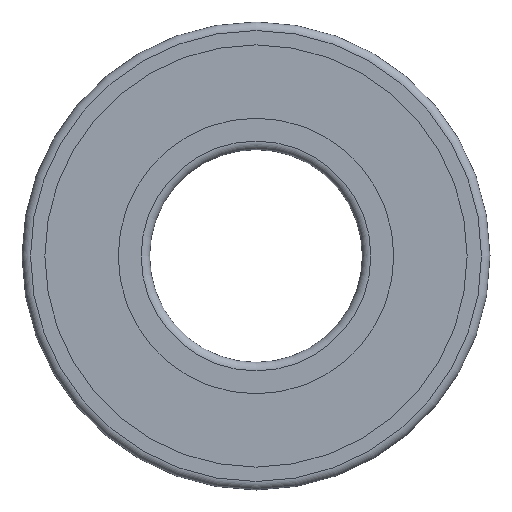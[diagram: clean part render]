
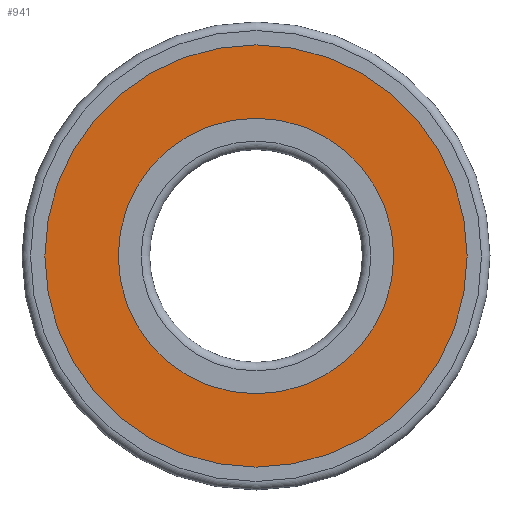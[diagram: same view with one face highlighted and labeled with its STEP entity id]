
A CAD part, left-side view. The second image highlights one B-rep face of the part: STEP entity #941.
In plain terms, the highlighted planar face has unit normal (-1, 0, 0).
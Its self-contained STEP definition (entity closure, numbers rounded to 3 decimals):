
#153=PLANE($,#1103);
#193=FACE_BOUND($,#332,.T.);
#194=FACE_BOUND($,#333,.T.);
#332=EDGE_LOOP($,(#874));
#333=EDGE_LOOP($,(#875));
#423=CIRCLE($,#1102,32.38);
#424=CIRCLE($,#1104,49.62);
#513=VERTEX_POINT($,#2398);
#514=VERTEX_POINT($,#2401);
#634=EDGE_CURVE($,#513,#513,#423,.T.);
#635=EDGE_CURVE($,#514,#514,#424,.T.);
#874=ORIENTED_EDGE($,*,*,#634,.T.);
#875=ORIENTED_EDGE($,*,*,#635,.F.);
#941=ADVANCED_FACE($,(#193,#194),#153,.T.);
#1102=AXIS2_PLACEMENT_3D($,#2399,#1419,#1420);
#1103=AXIS2_PLACEMENT_3D($,#2400,#1421,#1422);
#1104=AXIS2_PLACEMENT_3D($,#2402,#1423,#1424);
#1419=DIRECTION('center_axis',(1.,0.,0.));
#1420=DIRECTION('ref_axis',(0.,0.,-1.));
#1421=DIRECTION('center_axis',(-1.,0.,0.));
#1422=DIRECTION('ref_axis',(0.,0.,1.));
#1423=DIRECTION('center_axis',(1.,0.,0.));
#1424=DIRECTION('ref_axis',(0.,0.,-1.));
#2398=CARTESIAN_POINT('',(-13.5,32.38,0.));
#2399=CARTESIAN_POINT('Origin',(-13.5,0.,0.));
#2400=CARTESIAN_POINT('Origin',(-13.5,49.62,0.));
#2401=CARTESIAN_POINT('',(-13.5,49.62,0.));
#2402=CARTESIAN_POINT('Origin',(-13.5,0.,0.));
